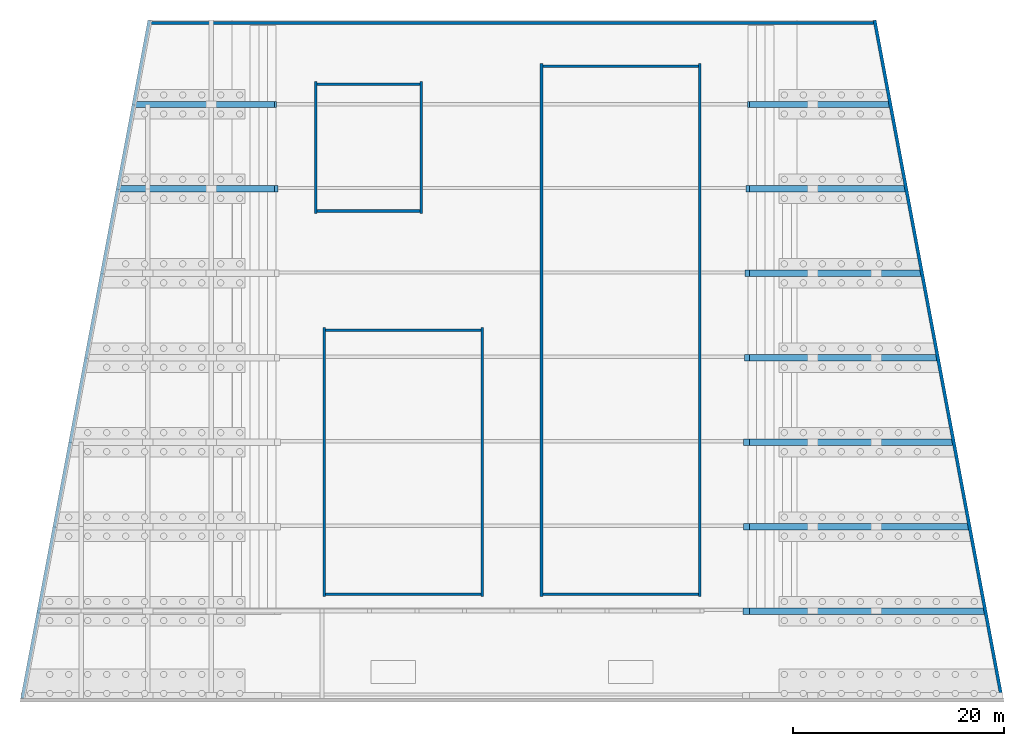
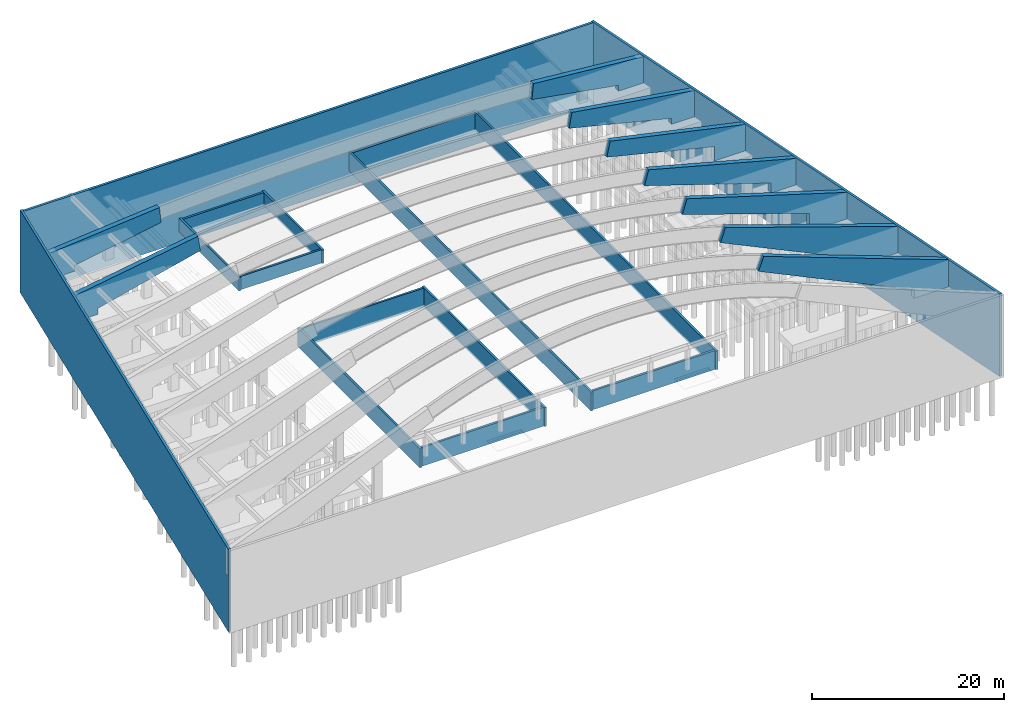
# One storey, part 6 of 10: 15 walls, 9 slabs.
"""IFC2X3 building model written with IfcOpenShell, lengths in millimetres."""

from ifc_helpers import new_model, si_unit, derived_unit, direction, frame, frame_2d, origin, place, context, subcontext, project, spatial, polyline, rectangle, outline, extrude, faceted_brep, material, layer, layer_set, layer_usage, type_object, element, save


model = new_model("IFC2X3")

# Units and contexts
model_context = context("Model", 3, precision=0.01, world=origin(), true_north=direction((6.12303176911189e-17, 1.0)))
body_context = subcontext(model_context, "Body", "Model", "MODEL_VIEW")
ifc_project = project(units=[si_unit("LENGTHUNIT", "METRE", prefix="MILLI"), si_unit("AREAUNIT", "SQUARE_METRE"), si_unit("VOLUMEUNIT", "CUBIC_METRE"), si_unit("PLANEANGLEUNIT", "RADIAN"), si_unit("MASSUNIT", "GRAM", prefix="KILO"), derived_unit("MASSDENSITYUNIT", [(si_unit("MASSUNIT", "GRAM", prefix="KILO"), 1), (si_unit("LENGTHUNIT", "METRE"), -3)]), si_unit("TIMEUNIT", "SECOND"), si_unit("FREQUENCYUNIT", "HERTZ"), si_unit("THERMODYNAMICTEMPERATUREUNIT", "DEGREE_CELSIUS"), derived_unit("THERMALTRANSMITTANCEUNIT", [(si_unit("MASSUNIT", "GRAM", prefix="KILO"), 1), (si_unit("THERMODYNAMICTEMPERATUREUNIT", "KELVIN"), -1), (si_unit("TIMEUNIT", "SECOND"), -3)]), derived_unit("VOLUMETRICFLOWRATEUNIT", [(si_unit("LENGTHUNIT", "METRE"), 3), (si_unit("TIMEUNIT", "SECOND"), -1)]), si_unit("ELECTRICCURRENTUNIT", "AMPERE"), si_unit("ELECTRICVOLTAGEUNIT", "VOLT"), si_unit("POWERUNIT", "WATT"), si_unit("FORCEUNIT", "NEWTON", prefix="KILO"), si_unit("ILLUMINANCEUNIT", "LUX"), si_unit("LUMINOUSFLUXUNIT", "LUMEN"), si_unit("LUMINOUSINTENSITYUNIT", "CANDELA"), derived_unit("USERDEFINED", [(si_unit("MASSUNIT", "GRAM", prefix="KILO"), -1), (si_unit("LENGTHUNIT", "METRE"), -2), (si_unit("TIMEUNIT", "SECOND"), 3), (si_unit("LUMINOUSFLUXUNIT", "LUMEN"), 1)]), derived_unit("LINEARVELOCITYUNIT", [(si_unit("LENGTHUNIT", "METRE"), 1), (si_unit("TIMEUNIT", "SECOND"), -1)]), si_unit("PRESSUREUNIT", "PASCAL"), derived_unit("USERDEFINED", [(si_unit("LENGTHUNIT", "METRE"), -2), (si_unit("MASSUNIT", "GRAM", prefix="KILO"), 1), (si_unit("TIMEUNIT", "SECOND"), -2)])], contexts=[model_context])

# Site, building, storey
site_placement = place(None, origin())
site = spatial("IfcSite", under=ifc_project, at=site_placement, Name="Default", CompositionType="ELEMENT")
building_placement = place(site_placement, origin())
building = spatial("IfcBuilding", under=site, at=building_placement, CompositionType="ELEMENT")
storey_placement = place(building_placement, origin())
storey = spatial("IfcBuildingStorey", under=building, at=storey_placement, Name="Default", CompositionType="ELEMENT", Elevation=0.0)

# Slabs
ifc_material_1 = material(Name="Concrete, Cast-in-Place gray")
slab_type_1 = type_object("IfcSlabType", Name="LOSA", PredefinedType="FLOOR", material=ifc_material_1)
slab_1_placement = place(building_placement, frame((102920.099102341, 82502.37, -3300.00023402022)))
element("IfcSlab", 1, at=slab_1_placement, inside=storey, type_object=slab_type_1, Name="LOSA 1805:LOSA 1805", ObjectType="LOSA 1805:LOSA 1805", PredefinedType="FLOOR", context=body_context, shape_type="Brep", body=[
    faceted_brep([(17806.7953469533, 600.0, 0.0), (17806.7953469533, 600.0, 300.000244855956), (0.0, 600.0, 8757.46607897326), (588.763976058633, 600.0, 10477.8293355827), (21227.3234287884, 600.0, 3414.64644343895), (21227.3234288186, 600.0, 0.000234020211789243), (588.763976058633, 0.0, 10477.8293355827), (0.0, 0.0, 8757.46607897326), (17806.7953469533, 0.0, 300.000244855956), (17806.7953469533, 0.0, 0.000234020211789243), (21339.8220342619, 0.0, 0.000234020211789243), (21339.8220342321, 0.0, 3376.14578029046), (17806.7953469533, 600.0, 0.000234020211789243), (17806.7953469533, 0.0, 0.0)], [[[0, 1, 2, 3, 4, 5]], [[6, 7, 8, 9, 10, 11]], [[1, 12, 13, 8]], [[2, 1, 8, 7]], [[3, 2, 7, 6]], [[3, 6, 11, 4]], [[9, 12, 5, 10]], [[5, 4, 11, 10]]]),
])
slab_type_2 = type_object("IfcSlabType", Name="LOSA", PredefinedType="FLOOR", material=ifc_material_1)
slab_2_placement = place(building_placement, frame((103016.006574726, 98502.3669014, -3300.0)))
element("IfcSlab", 2, at=slab_2_placement, inside=storey, type_object=slab_type_2, Name="LOSA 2247:LOSA 2247", ObjectType="LOSA 2247:LOSA 2247", PredefinedType="FLOOR", context=body_context, shape_type="Brep", body=[
    faceted_brep([(498.796271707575, 0.0, 8122.16744408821), (0.0, 0.0, 6260.63441544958), (15208.0557225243, 0.0, 1300.0), (15208.0557225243, 0.0, 4.27884778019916e-05), (18243.9523348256, 0.0, 4.27884778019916e-05), (18243.9523348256, 0.0, 3367.36720741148), (15208.0557225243, 600.0, 0.0), (15208.0557225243, 600.0, 1300.0), (0.0, 600.0, 6260.63441544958), (498.796271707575, 600.0, 8122.16744408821), (18131.4537295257, 600.0, 3397.51111785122), (18131.4537295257, 600.0, 4.27884778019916e-05), (15208.0557225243, 0.0, 0.0), (15208.0557225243, 600.0, 4.27884778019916e-05)], [[[0, 1, 2, 3, 4, 5]], [[6, 7, 8, 9, 10, 11]], [[9, 0, 5, 10]], [[1, 0, 9, 8]], [[2, 1, 8, 7]], [[12, 2, 7, 13]], [[3, 13, 11, 4]], [[5, 4, 11, 10]]]),
])
slab_type_3 = type_object("IfcSlabType", Name="LOSA", PredefinedType="FLOOR", material=ifc_material_1)
slab_3_placement = place(building_placement, frame((103093.83195057, 106502.366901, -3300.0)))
element("IfcSlab", 3, at=slab_3_placement, inside=storey, type_object=slab_type_3, Name="LOSA 2290:LOSA 2290", ObjectType="LOSA 2290:LOSA 2290", PredefinedType="FLOOR", context=body_context, shape_type="Brep", body=[
    faceted_brep([(415.031152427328, 0.0, 6911.615234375), (0.0, 0.0, 5013.4775390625), (12947.6932373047, 0.0, 1835.66943359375), (12947.6932373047, 0.0, 4.27884799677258e-05), (16666.1455550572, 0.0, 4.27884799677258e-05), (16666.1455550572, 0.0, 3358.27942868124), (12947.6932373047, 600.0, 0.0), (12947.6932373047, 600.0, 1835.66943359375), (0.0, 600.0, 5013.4775390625), (415.031152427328, 600.0, 6911.615234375), (16553.6469497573, 600.0, 3382.87745392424), (16553.6469497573, 600.0, 4.27884799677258e-05), (12947.6932373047, 0.0, 0.0), (12947.6932373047, 600.0, 4.27884799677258e-05)], [[[0, 1, 2, 3, 4, 5]], [[6, 7, 8, 9, 10, 11]], [[9, 0, 5, 10]], [[1, 0, 9, 8]], [[2, 1, 8, 7]], [[12, 2, 7, 13]], [[3, 13, 11, 4]], [[5, 4, 11, 10]]]),
])
slab_type_4 = type_object("IfcSlabType", Name="LOSA", PredefinedType="FLOOR", material=ifc_material_1)
slab_4_placement = place(building_placement, frame((103198.774668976, 114502.366901, -3300.0)))
element("IfcSlab", 4, at=slab_4_placement, inside=storey, type_object=slab_type_4, Name="LOSA 2332:LOSA 2332", ObjectType="LOSA 2332:LOSA 2332", PredefinedType="FLOOR", context=body_context, shape_type="Brep", body=[
    faceted_brep([(310.088394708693, 0.0, 5722.876953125), (0.0, 0.0, 3798.98291015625), (12310.0884094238, 0.0, 777.665039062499), (12310.0884094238, 0.0, 4.27884778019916e-05), (15061.2214326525, 0.0, 4.27884778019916e-05), (15061.2214326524, 0.0, 3345.32641202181), (12310.0884094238, 600.0, 0.0), (12310.0884094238, 600.0, 777.665039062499), (0.0, 600.0, 3798.98291015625), (310.088394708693, 600.0, 5722.876953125), (14948.7228273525, 600.0, 3363.45865442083), (14948.7228273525, 600.0, 4.27884778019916e-05), (12310.0884094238, 0.0, 0.0), (12310.0884094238, 600.0, 4.27884778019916e-05)], [[[0, 1, 2, 3, 4, 5]], [[6, 7, 8, 9, 10, 11]], [[9, 0, 5, 10]], [[1, 0, 9, 8]], [[2, 1, 8, 7]], [[12, 2, 7, 13]], [[3, 13, 11, 4]], [[5, 4, 11, 10]]]),
])
slab_type_5 = type_object("IfcSlabType", Name="LOSA", PredefinedType="FLOOR", material=ifc_material_1)
slab_5_placement = place(building_placement, frame((103329.523066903, 122502.366901, -3300.0)))
element("IfcSlab", 5, at=slab_5_placement, inside=storey, type_object=slab_type_5, Name="LOSA 2374:LOSA 2374", ObjectType="LOSA 2374:LOSA 2374", PredefinedType="FLOOR", context=body_context, shape_type="Brep", body=[
    faceted_brep([(179.340013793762, 0.0, 4534.138671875), (0.0, 0.0, 2565.53662109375), (10421.8663787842, 0.0, 740.930297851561), (10421.8663787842, 0.0, 4.27884799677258e-05), (13430.4916307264, 0.0, 4.27884799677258e-05), (13430.4916307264, 0.0, 3326.95672597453), (10421.8663787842, 600.0, 0.0), (10421.8663787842, 600.0, 740.930297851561), (0.0, 600.0, 2565.53662109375), (179.340013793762, 600.0, 4534.138671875), (13317.9930254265, 600.0, 3337.20536618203), (13317.9930254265, 600.0, 4.27884799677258e-05), (10421.8663787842, 0.0, 0.0), (10421.8663787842, 600.0, 4.27884799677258e-05)], [[[0, 1, 2, 3, 4, 5]], [[6, 7, 8, 9, 10, 11]], [[9, 0, 5, 10]], [[1, 0, 9, 8]], [[2, 1, 8, 7]], [[12, 2, 7, 13]], [[3, 13, 11, 4]], [[5, 4, 11, 10]]]),
])
slab_type_6 = type_object("IfcSlabType", Name="LOSA", PredefinedType="FLOOR", material=ifc_material_1)
slab_6_placement = place(building_placement, frame((102880.421123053, 74502.3654658, -3300.00018971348)))
element("IfcSlab", 6, at=slab_6_placement, inside=storey, type_object=slab_type_6, Name="LOSA 2419:LOSA 2419", ObjectType="LOSA 2419:LOSA 2419", PredefinedType="FLOOR", context=body_context, shape_type="Brep", body=[
    faceted_brep([(628.441993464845, 0.0, 11666.5665349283), (0.0, 0.0, 9965.04993335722), (18735.3345335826, 0.0, 1066.56702345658), (18735.3345335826, 0.0, 0.0), (22879.4822661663, 0.0, 0.0), (22879.4822661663, 0.0, 3448.3179803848), (18735.3345335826, 600.0, 6.76431626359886e-05), (18735.3345335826, 600.0, 1066.56702345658), (0.0, 600.0, 9965.04993335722), (628.441993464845, 600.0, 11666.5665349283), (22766.9836608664, 600.0, 3489.86846472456), (22766.9836608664, 600.0, 0.0), (18735.3345335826, 0.0, 6.76431626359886e-05), (18735.3345335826, 600.0, 0.0)], [[[0, 1, 2, 3, 4, 5]], [[6, 7, 8, 9, 10, 11]], [[9, 0, 5, 10]], [[1, 0, 9, 8]], [[2, 1, 8, 7]], [[12, 2, 7, 13]], [[3, 13, 11, 4]], [[5, 4, 11, 10]]]),
])
slab_type_7 = type_object("IfcSlabType", Name="LOSA", PredefinedType="FLOOR", material=ifc_material_1)
slab_7_placement = place(building_placement, frame((102947.26664283, 90503.1569014, -3300.0)))
element("IfcSlab", 7, at=slab_7_placement, inside=storey, type_object=slab_type_7, Name="LOSA 2460:LOSA 2460", ObjectType="LOSA 2460:LOSA 2460", PredefinedType="FLOOR", context=body_context, shape_type="Brep", body=[
    faceted_brep([(561.596427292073, 0.0, 9289.0908203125), (0.0, 0.0, 7461.67968749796), (15276.7966309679, 0.0, 2300.0), (15276.7966309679, 0.0, 4.27884821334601e-05), (19812.5255480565, 0.0, 4.27884821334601e-05), (19812.5255480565, 0.0, 3372.9341761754), (15276.7966309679, 600.0, 0.0), (15276.7966309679, 600.0, 2300.0), (0.0, 600.0, 7461.67968749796), (561.596427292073, 600.0, 9289.0908203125), (19700.0269427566, 600.0, 3407.50702027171), (19700.0269427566, 600.0, 4.27884821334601e-05), (15276.7966309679, 0.0, 0.0), (15276.7966309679, 600.0, 4.27884821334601e-05)], [[[0, 1, 2, 3, 4, 5]], [[6, 7, 8, 9, 10, 11]], [[9, 0, 5, 10]], [[1, 0, 9, 8]], [[2, 1, 8, 7]], [[12, 2, 7, 13]], [[3, 13, 11, 4]], [[5, 4, 11, 10]]]),
])
slab_type_8 = type_object("IfcSlabType", Name="LOSA", PredefinedType="FLOOR", material=ifc_material_1)
slab_8_placement = place(building_placement, frame((43757.7238983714, 114502.366901, -3300.0)))
element("IfcSlab", 8, at=slab_8_placement, inside=storey, type_object=slab_type_8, Name="LOSA 5577:LOSA 5577", ObjectType="LOSA 5577:LOSA 5577", PredefinedType="FLOOR", context=body_context, shape_type="Brep", body=[
    faceted_brep([(14751.1330379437, 600.0, 5722.876953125), (15061.2214326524, 600.0, 3798.98291015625), (2751.13302322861, 600.0, 777.665039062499), (2751.13302322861, 600.0, 0.0), (112.498605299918, 600.0, 0.0), (112.498605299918, 600.0, 3363.45865442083), (2751.13302322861, 0.0, 0.0), (2751.13302322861, 0.0, 777.665039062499), (15061.2214326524, 0.0, 3798.98291015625), (14751.1330379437, 0.0, 5722.876953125), (0.0, 0.0, 3345.32641202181), (0.0, 0.0, 0.0)], [[[0, 1, 2, 3, 4, 5]], [[6, 7, 8, 9, 10, 11]], [[9, 0, 5, 10]], [[1, 0, 9, 8]], [[2, 1, 8, 7]], [[3, 2, 7, 6]], [[3, 6, 11, 4]], [[5, 4, 11, 10]]]),
])
slab_type_9 = type_object("IfcSlabType", Name="LOSA", PredefinedType="FLOOR", material=ifc_material_1)
slab_9_placement = place(building_placement, frame((45257.7053023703, 122502.366901, -3300.0)))
element("IfcSlab", 9, at=slab_9_placement, inside=storey, type_object=slab_type_9, Name="LOSA 5600:LOSA 5600", ObjectType="LOSA 5600:LOSA 5600", PredefinedType="FLOOR", context=body_context, shape_type="Brep", body=[
    faceted_brep([(13251.1516169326, 600.0, 4534.138671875), (13430.4916307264, 600.0, 2565.53662109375), (3008.62525194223, 600.0, 740.930297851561), (3008.62525194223, 600.0, 0.0), (112.498605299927, 600.0, 0.0), (112.498605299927, 600.0, 3337.20536618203), (3008.62525194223, 0.0, 0.0), (3008.62525194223, 0.0, 740.930297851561), (13430.4916307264, 0.0, 2565.53662109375), (13251.1516169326, 0.0, 4534.138671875), (0.0, 0.0, 3326.95672597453), (0.0, 0.0, 0.0)], [[[0, 1, 2, 3, 4, 5]], [[6, 7, 8, 9, 10, 11]], [[9, 0, 5, 10]], [[1, 0, 9, 8]], [[2, 1, 8, 7]], [[3, 2, 7, 6]], [[3, 6, 11, 4]], [[5, 4, 11, 10]]]),
])

# Walls
ifc_material_2 = material(Name="CONCRETE/28MPa")
ifc_layer_1 = layer(ifc_material_2, 300.000000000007)
ifc_layer_set_1 = layer_set([ifc_layer_1], Name="Basic Wall:10500*300")
ifc_layer_usage_1 = layer_usage(ifc_layer_set_1, "AXIS2", "NEGATIVE", 150.000000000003)
wall_type_1 = type_object("IfcWallType", Name="Basic Wall:10500*300", PredefinedType="STANDARD", material=ifc_layer_set_1)
wall_1_placement = place(storey_placement, frame((115361.573492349, 130774.726414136, -10400.0), z_axis=(0.0, 0.0, 1.0), x_axis=(0.184286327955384, -0.982872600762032, 0.0)))
element("IfcWallStandardCase", 10, at=wall_1_placement, inside=storey, type_object=wall_type_1, material=ifc_layer_usage_1, Name="PANTALLA", ObjectType="10500*300", context=body_context, shape_type="SweptSolid", body=[
    extrude(outline(polyline([(65364.2373890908, -150.0), (65420.4866917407, 150.0), (0.0, 150.0), (0.0, -150.0), (96.3645675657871, -150.0), (401.592325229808, -150.0), (65364.2373890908, -150.0)])), origin(), (0.0, 0.0, 1.0), 10500.0),
])
ifc_layer_usage_2 = layer_usage(ifc_layer_set_1, "AXIS2", "NEGATIVE", 150.000000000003)
wall_2_placement = place(storey_placement, frame((34600.03833773, 66474.7225165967, -10399.9999657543), z_axis=(0.0, 0.0, 1.0), x_axis=(0.184286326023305, 0.982872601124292, 0.0)))
element("IfcWallStandardCase", 11, at=wall_2_placement, inside=storey, type_object=wall_type_1, material=ifc_layer_usage_2, Name="PANTALLA", ObjectType="10500*300", context=body_context, shape_type="SweptSolid", body=[
    extrude(outline(polyline([(65420.4867061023, -150.0), (65420.4867061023, 150.0), (0.0, 150.0), (56.2493020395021, -150.0), (65018.894341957, -150.0), (65324.1220995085, -150.0), (65420.4867061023, -150.0)])), origin(), (0.0, 0.0, 1.0), 10500.0),
])
ifc_layer_usage_3 = layer_usage(ifc_layer_set_1, "AXIS2", "NEGATIVE", 150.000000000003)
wall_3_placement = place(storey_placement, frame((46729.5623882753, 130502.369371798, -10399.999969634)))
element("IfcWallStandardCase", 12, at=wall_3_placement, inside=storey, type_object=wall_type_1, material=ifc_layer_usage_3, Name="PANTALLA", ObjectType="10500*300", context=body_context, shape_type="SweptSolid", body=[
    extrude(outline(polyline([(68558.5881889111, -150.0), (68502.3388862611, 150.0), (56.249302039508, 150.0), (0.0, -150.0), (68558.5881889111, -150.0)])), origin(), (0.0, 0.0, 1.0), 10500.0),
])
ifc_layer_2 = layer(ifc_material_2, 250.000000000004)
ifc_layer_set_2 = layer_set([ifc_layer_2], Name="Basic Wall:1700*250")
ifc_layer_usage_4 = layer_usage(ifc_layer_set_2, "AXIS2", "NEGATIVE", 125.000000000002)
wall_type_2 = type_object("IfcWallType", Name="Basic Wall:1700*250", PredefinedType="STANDARD", material=ifc_layer_set_2)
wall_4_placement = place(storey_placement, frame((72407.1766967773, 124962.863647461, -4650.00076293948), z_axis=(0.0, 0.0, 1.0), x_axis=(0.0, -1.0, 0.0)))
element("IfcWallStandardCase", 13, at=wall_4_placement, inside=storey, type_object=wall_type_2, material=ifc_layer_usage_4, Name="PANEL", ObjectType="1700*250", context=body_context, shape_type="SweptSolid", body=[
    extrude(rectangle(XDim=12499.9999999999, YDim=250.000000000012, at=frame_2d((6249.99999999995, 0.0), x_axis=(-1.0, 0.0))), origin(), (0.0, 0.0, 1.0), 1700.0),
])
ifc_layer_usage_5 = layer_usage(ifc_layer_set_2, "AXIS2", "NEGATIVE", 125.000000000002)
wall_5_placement = place(storey_placement, frame((62407.1766967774, 112462.863647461, -4650.00076293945), z_axis=(0.0, 0.0, 1.0), x_axis=(0.0, 1.0, 0.0)))
element("IfcWallStandardCase", 14, at=wall_5_placement, inside=storey, type_object=wall_type_2, material=ifc_layer_usage_5, Name="PANEL", ObjectType="1700*250", context=body_context, shape_type="SweptSolid", body=[
    extrude(rectangle(XDim=12499.9999999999, YDim=250.000000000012, at=frame_2d((6249.99999999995, 0.0), x_axis=(-1.0, 0.0))), origin(), (0.0, 0.0, 1.0), 1700.0),
])
ifc_layer_usage_6 = layer_usage(ifc_layer_set_2, "AXIS2", "NEGATIVE", 125.000000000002)
wall_6_placement = place(storey_placement, frame((72282.1766967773, 112712.863647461, -4650.00076293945), z_axis=(0.0, 0.0, 1.0), x_axis=(-1.0, 0.0, 0.0)))
element("IfcWallStandardCase", 15, at=wall_6_placement, inside=storey, type_object=wall_type_2, material=ifc_layer_usage_6, Name="PANEL", ObjectType="1700*250", context=body_context, shape_type="SweptSolid", body=[
    extrude(rectangle(XDim=9749.99999999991, YDim=250.000000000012, at=frame_2d((4874.99999999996, 0.0), x_axis=(-1.0, 0.0))), origin(), (0.0, 0.0, 1.0), 1700.0),
])
ifc_layer_usage_7 = layer_usage(ifc_layer_set_2, "AXIS2", "NEGATIVE", 125.000000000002)
wall_7_placement = place(storey_placement, frame((62532.1766967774, 124712.863647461, -4650.00076293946)))
element("IfcWallStandardCase", 16, at=wall_7_placement, inside=storey, type_object=wall_type_2, material=ifc_layer_usage_7, Name="PANEL", ObjectType="1700*250", context=body_context, shape_type="SweptSolid", body=[
    extrude(rectangle(XDim=9749.99999999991, YDim=250.000000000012, at=frame_2d((4874.99999999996, 0.0), x_axis=(-1.0, 0.0))), origin(), (0.0, 0.0, 1.0), 1700.0),
])
ifc_layer_3 = layer(ifc_material_2, 250.000000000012)
ifc_layer_set_3 = layer_set([ifc_layer_3], Name="Basic Wall:2400*250")
ifc_layer_usage_8 = layer_usage(ifc_layer_set_3, "AXIS2", "NEGATIVE", 125.000000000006)
wall_type_3 = type_object("IfcWallType", Name="Basic Wall:2400*250", PredefinedType="STANDARD", material=ifc_layer_set_3)
wall_8_placement = place(storey_placement, frame((98807.1782226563, 126662.860595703, -5400.0), z_axis=(0.0, 0.0, 1.0), x_axis=(0.0, -1.0, 0.0)))
element("IfcWallStandardCase", 17, at=wall_8_placement, inside=storey, type_object=wall_type_3, material=ifc_layer_usage_8, Name="PANEL", ObjectType="2400*250", context=body_context, shape_type="SweptSolid", body=[
    extrude(rectangle(XDim=50499.9923706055, YDim=250.000000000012, at=frame_2d((25249.9961853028, 0.0), x_axis=(-1.0, 0.0))), origin(), (0.0, 0.0, 1.0), 2400.0),
])
ifc_layer_usage_9 = layer_usage(ifc_layer_set_3, "AXIS2", "NEGATIVE", 125.000000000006)
wall_9_placement = place(storey_placement, frame((83807.1782226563, 76162.8682250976, -5400.0), z_axis=(0.0, 0.0, 1.0), x_axis=(0.0, 1.0, 0.0)))
element("IfcWallStandardCase", 18, at=wall_9_placement, inside=storey, type_object=wall_type_3, material=ifc_layer_usage_9, Name="PANEL", ObjectType="2400*250", context=body_context, shape_type="SweptSolid", body=[
    extrude(rectangle(XDim=50499.9999999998, YDim=250.000000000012, at=frame_2d((25249.9999999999, 0.0), x_axis=(-1.0, 0.0))), origin(), (0.0, 0.0, 1.0), 2400.0),
])
ifc_layer_usage_10 = layer_usage(ifc_layer_set_3, "AXIS2", "NEGATIVE", 125.000000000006)
wall_10_placement = place(storey_placement, frame((83932.1782226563, 126412.860595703, -5400.0)))
element("IfcWallStandardCase", 19, at=wall_10_placement, inside=storey, type_object=wall_type_3, material=ifc_layer_usage_10, Name="PANEL", ObjectType="2400*250", context=body_context, shape_type="SweptSolid", body=[
    extrude(rectangle(XDim=14750.0, YDim=250.000000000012, at=frame_2d((7374.99999999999, 0.0), x_axis=(-1.0, 0.0))), origin(), (0.0, 0.0, 1.0), 2400.0),
])
ifc_layer_usage_11 = layer_usage(ifc_layer_set_3, "AXIS2", "NEGATIVE", 125.000000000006)
wall_11_placement = place(storey_placement, frame((98682.1782226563, 76412.8682250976, -5400.0), z_axis=(0.0, 0.0, 1.0), x_axis=(-1.0, 0.0, 0.0)))
element("IfcWallStandardCase", 20, at=wall_11_placement, inside=storey, type_object=wall_type_3, material=ifc_layer_usage_11, Name="PANEL", ObjectType="2400*250", context=body_context, shape_type="SweptSolid", body=[
    extrude(rectangle(XDim=14750.0, YDim=250.000000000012, at=frame_2d((7374.99999999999, 0.0), x_axis=(-1.0, 0.0))), origin(), (0.0, 0.0, 1.0), 2400.0),
])
ifc_layer_usage_12 = layer_usage(ifc_layer_set_3, "AXIS2", "NEGATIVE", 125.000000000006)
wall_12_placement = place(storey_placement, frame((78207.1797485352, 101662.868225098, -5400.0), z_axis=(0.0, 0.0, 1.0), x_axis=(0.0, -1.0, 0.0)))
element("IfcWallStandardCase", 21, at=wall_12_placement, inside=storey, type_object=wall_type_3, material=ifc_layer_usage_12, Name="PANEL", ObjectType="2400*250", context=body_context, shape_type="SweptSolid", body=[
    extrude(rectangle(XDim=25499.9999999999, YDim=250.000000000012, at=frame_2d((12750.0, 0.0), x_axis=(-1.0, 0.0))), origin(), (0.0, 0.0, 1.0), 2400.0),
])
ifc_layer_usage_13 = layer_usage(ifc_layer_set_3, "AXIS2", "NEGATIVE", 125.000000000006)
wall_13_placement = place(storey_placement, frame((63207.1797485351, 76162.8682250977, -5400.0), z_axis=(0.0, 0.0, 1.0), x_axis=(0.0, 1.0, 0.0)))
element("IfcWallStandardCase", 22, at=wall_13_placement, inside=storey, type_object=wall_type_3, material=ifc_layer_usage_13, Name="PANEL", ObjectType="2400*250", context=body_context, shape_type="SweptSolid", body=[
    extrude(rectangle(XDim=25499.9999999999, YDim=250.000000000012, at=frame_2d((12749.9999999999, 0.0), x_axis=(-1.0, 0.0))), origin(), (0.0, 0.0, 1.0), 2400.0),
])
ifc_layer_usage_14 = layer_usage(ifc_layer_set_3, "AXIS2", "NEGATIVE", 125.000000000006)
wall_14_placement = place(storey_placement, frame((63332.1797485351, 101412.868225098, -5400.0)))
element("IfcWallStandardCase", 23, at=wall_14_placement, inside=storey, type_object=wall_type_3, material=ifc_layer_usage_14, Name="PANEL", ObjectType="2400*250", context=body_context, shape_type="SweptSolid", body=[
    extrude(rectangle(XDim=14750.0000000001, YDim=250.000000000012, at=frame_2d((7375.00000000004, 0.0), x_axis=(-1.0, 0.0))), origin(), (0.0, 0.0, 1.0), 2400.0),
])
ifc_layer_usage_15 = layer_usage(ifc_layer_set_3, "AXIS2", "NEGATIVE", 125.000000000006)
wall_15_placement = place(storey_placement, frame((78082.1797485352, 76412.8682250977, -5400.0), z_axis=(0.0, 0.0, 1.0), x_axis=(-1.0, 0.0, 0.0)))
element("IfcWallStandardCase", 24, at=wall_15_placement, inside=storey, type_object=wall_type_3, material=ifc_layer_usage_15, Name="PANEL", ObjectType="2400*250", context=body_context, shape_type="SweptSolid", body=[
    extrude(rectangle(XDim=14750.0000000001, YDim=250.000000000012, at=frame_2d((7375.00000000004, 0.0), x_axis=(-1.0, 0.0))), origin(), (0.0, 0.0, 1.0), 2400.0),
])

save(model, "model.ifc")
